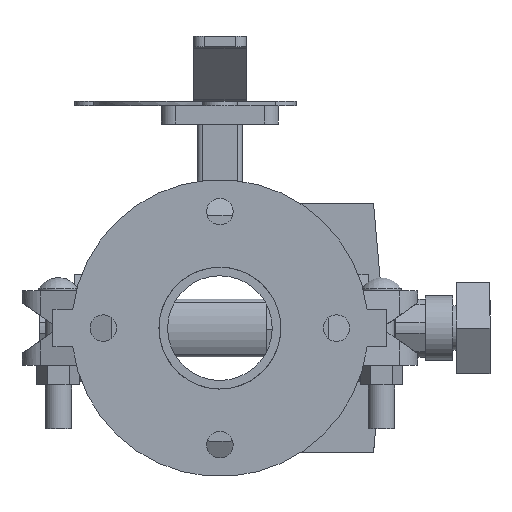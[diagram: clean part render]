
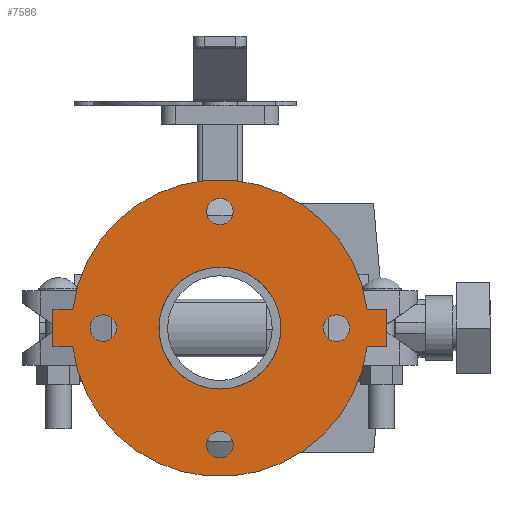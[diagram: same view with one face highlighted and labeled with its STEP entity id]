
A CAD part, front view. The second image highlights one B-rep face of the part: STEP entity #7586.
In plain terms, the highlighted planar face has unit normal (0, -1, 0) as drawn and (0, 0, -1) by its records, which use the part's own axes.
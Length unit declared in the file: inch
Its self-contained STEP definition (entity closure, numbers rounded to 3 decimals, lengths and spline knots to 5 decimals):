
#170=FACE_BOUND('',#932,.T.);
#171=FACE_BOUND('',#933,.T.);
#172=FACE_BOUND('',#934,.T.);
#173=FACE_BOUND('',#935,.T.);
#174=FACE_BOUND('',#936,.T.);
#262=PLANE('',#8215);
#510=FACE_OUTER_BOUND('',#931,.T.);
#931=EDGE_LOOP('',(#4856,#4857,#4858,#4859,#4860,#4861,#4862,#4863));
#932=EDGE_LOOP('',(#4864));
#933=EDGE_LOOP('',(#4865));
#934=EDGE_LOOP('',(#4866));
#935=EDGE_LOOP('',(#4867));
#936=EDGE_LOOP('',(#4868,#4869));
#1444=LINE('',#11508,#2023);
#1445=LINE('',#11510,#2024);
#1446=LINE('',#11512,#2025);
#1447=LINE('',#11516,#2026);
#1448=LINE('',#11518,#2027);
#1449=LINE('',#11519,#2028);
#2023=VECTOR('',#9136,0.3937);
#2024=VECTOR('',#9137,0.3937);
#2025=VECTOR('',#9138,0.3937);
#2026=VECTOR('',#9141,0.3937);
#2027=VECTOR('',#9142,0.3937);
#2028=VECTOR('',#9143,0.3937);
#2599=CIRCLE('',#8205,0.3125);
#2601=CIRCLE('',#8208,0.3125);
#2603=CIRCLE('',#8211,0.3125);
#2605=CIRCLE('',#8214,0.3125);
#2606=CIRCLE('',#8216,3.5);
#2607=CIRCLE('',#8217,3.5);
#2608=CIRCLE('',#8218,1.4375);
#2609=CIRCLE('',#8219,1.4375);
#3034=VERTEX_POINT('',#11482);
#3036=VERTEX_POINT('',#11488);
#3038=VERTEX_POINT('',#11494);
#3040=VERTEX_POINT('',#11500);
#3041=VERTEX_POINT('',#11504);
#3042=VERTEX_POINT('',#11505);
#3043=VERTEX_POINT('',#11507);
#3044=VERTEX_POINT('',#11509);
#3045=VERTEX_POINT('',#11511);
#3046=VERTEX_POINT('',#11513);
#3047=VERTEX_POINT('',#11515);
#3048=VERTEX_POINT('',#11517);
#3049=VERTEX_POINT('',#11520);
#3050=VERTEX_POINT('',#11521);
#3761=EDGE_CURVE('',#3034,#3034,#2599,.T.);
#3764=EDGE_CURVE('',#3036,#3036,#2601,.T.);
#3767=EDGE_CURVE('',#3038,#3038,#2603,.T.);
#3770=EDGE_CURVE('',#3040,#3040,#2605,.T.);
#3771=EDGE_CURVE('',#3041,#3042,#2606,.T.);
#3772=EDGE_CURVE('',#3042,#3043,#1444,.T.);
#3773=EDGE_CURVE('',#3043,#3044,#1445,.T.);
#3774=EDGE_CURVE('',#3044,#3045,#1446,.T.);
#3775=EDGE_CURVE('',#3045,#3046,#2607,.T.);
#3776=EDGE_CURVE('',#3046,#3047,#1447,.T.);
#3777=EDGE_CURVE('',#3047,#3048,#1448,.T.);
#3778=EDGE_CURVE('',#3048,#3041,#1449,.T.);
#3779=EDGE_CURVE('',#3049,#3050,#2608,.T.);
#3780=EDGE_CURVE('',#3050,#3049,#2609,.T.);
#4856=ORIENTED_EDGE('',*,*,#3771,.T.);
#4857=ORIENTED_EDGE('',*,*,#3772,.T.);
#4858=ORIENTED_EDGE('',*,*,#3773,.T.);
#4859=ORIENTED_EDGE('',*,*,#3774,.T.);
#4860=ORIENTED_EDGE('',*,*,#3775,.T.);
#4861=ORIENTED_EDGE('',*,*,#3776,.T.);
#4862=ORIENTED_EDGE('',*,*,#3777,.T.);
#4863=ORIENTED_EDGE('',*,*,#3778,.T.);
#4864=ORIENTED_EDGE('',*,*,#3761,.T.);
#4865=ORIENTED_EDGE('',*,*,#3764,.T.);
#4866=ORIENTED_EDGE('',*,*,#3767,.T.);
#4867=ORIENTED_EDGE('',*,*,#3770,.T.);
#4868=ORIENTED_EDGE('',*,*,#3779,.T.);
#4869=ORIENTED_EDGE('',*,*,#3780,.T.);
#7586=ADVANCED_FACE('',(#510,#170,#171,#172,#173,#174),#262,.T.);
#8205=AXIS2_PLACEMENT_3D('',#11484,#9109,#9110);
#8208=AXIS2_PLACEMENT_3D('',#11490,#9116,#9117);
#8211=AXIS2_PLACEMENT_3D('',#11496,#9123,#9124);
#8214=AXIS2_PLACEMENT_3D('',#11502,#9130,#9131);
#8215=AXIS2_PLACEMENT_3D('',#11503,#9132,#9133);
#8216=AXIS2_PLACEMENT_3D('',#11506,#9134,#9135);
#8217=AXIS2_PLACEMENT_3D('',#11514,#9139,#9140);
#8218=AXIS2_PLACEMENT_3D('',#11522,#9144,#9145);
#8219=AXIS2_PLACEMENT_3D('',#11523,#9146,#9147);
#9109=DIRECTION('center_axis',(0.,0.,1.));
#9110=DIRECTION('ref_axis',(0.,1.,0.));
#9116=DIRECTION('center_axis',(0.,0.,1.));
#9117=DIRECTION('ref_axis',(1.,0.,0.));
#9123=DIRECTION('center_axis',(0.,0.,1.));
#9124=DIRECTION('ref_axis',(0.,-1.,0.));
#9130=DIRECTION('center_axis',(0.,0.,1.));
#9131=DIRECTION('ref_axis',(-1.,0.,0.));
#9132=DIRECTION('center_axis',(0.,0.,-1.));
#9133=DIRECTION('ref_axis',(-1.,0.,0.));
#9134=DIRECTION('center_axis',(0.,0.,-1.));
#9135=DIRECTION('ref_axis',(-1.,0.,0.));
#9136=DIRECTION('',(0.,1.,0.));
#9137=DIRECTION('',(1.,0.,0.));
#9138=DIRECTION('',(0.,-1.,0.));
#9139=DIRECTION('center_axis',(0.,0.,-1.));
#9140=DIRECTION('ref_axis',(-1.,0.,0.));
#9141=DIRECTION('',(0.,-1.,0.));
#9142=DIRECTION('',(-1.,0.,0.));
#9143=DIRECTION('',(0.,1.,0.));
#9144=DIRECTION('center_axis',(0.,0.,1.));
#9145=DIRECTION('ref_axis',(-1.,0.,0.));
#9146=DIRECTION('center_axis',(0.,0.,1.));
#9147=DIRECTION('ref_axis',(-1.,0.,0.));
#11482=CARTESIAN_POINT('',(0.,2.4375,-0.44));
#11484=CARTESIAN_POINT('Origin',(0.,2.75,-0.44));
#11488=CARTESIAN_POINT('',(2.4375,0.,-0.44));
#11490=CARTESIAN_POINT('Origin',(2.75,0.,-0.44));
#11494=CARTESIAN_POINT('',(0.,-2.4375,-0.44));
#11496=CARTESIAN_POINT('Origin',(0.,-2.75,-0.44));
#11500=CARTESIAN_POINT('',(-2.4375,0.,-0.44));
#11502=CARTESIAN_POINT('Origin',(-2.75,0.,-0.44));
#11503=CARTESIAN_POINT('Origin',(0.,0.,-0.44));
#11504=CARTESIAN_POINT('',(-0.44,-3.47223,-0.44));
#11505=CARTESIAN_POINT('',(-0.44,3.47223,-0.44));
#11506=CARTESIAN_POINT('Origin',(0.,0.,-0.44));
#11507=CARTESIAN_POINT('',(-0.44,3.94,-0.44));
#11508=CARTESIAN_POINT('',(-0.44,-3.94,-0.44));
#11509=CARTESIAN_POINT('',(0.44,3.94,-0.44));
#11510=CARTESIAN_POINT('',(-0.44,3.94,-0.44));
#11511=CARTESIAN_POINT('',(0.44,3.47223,-0.44));
#11512=CARTESIAN_POINT('',(0.44,3.94,-0.44));
#11513=CARTESIAN_POINT('',(0.44,-3.47223,-0.44));
#11514=CARTESIAN_POINT('Origin',(0.,0.,-0.44));
#11515=CARTESIAN_POINT('',(0.44,-3.94,-0.44));
#11516=CARTESIAN_POINT('',(0.44,3.94,-0.44));
#11517=CARTESIAN_POINT('',(-0.44,-3.94,-0.44));
#11518=CARTESIAN_POINT('',(0.44,-3.94,-0.44));
#11519=CARTESIAN_POINT('',(-0.44,-3.94,-0.44));
#11520=CARTESIAN_POINT('',(0.44,1.36851,-0.44));
#11521=CARTESIAN_POINT('',(1.4375,0.,-0.44));
#11522=CARTESIAN_POINT('Origin',(0.,0.,-0.44));
#11523=CARTESIAN_POINT('Origin',(0.,0.,-0.44));
